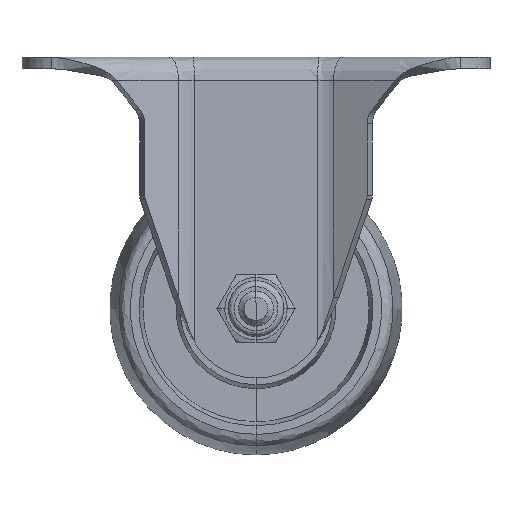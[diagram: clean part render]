
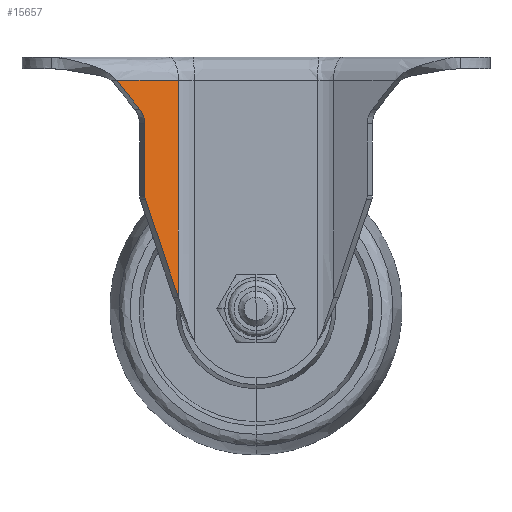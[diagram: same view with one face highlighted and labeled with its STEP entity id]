
A CAD part, front view. The second image highlights one B-rep face of the part: STEP entity #15657.
In plain terms, the highlighted planar face has unit normal (0.447, -0.894, 0).
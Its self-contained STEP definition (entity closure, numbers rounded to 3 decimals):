
#1718 = CARTESIAN_POINT ( 'NONE',  ( -13.267, -18.133, -4. ) ) ;
#1763 = CARTESIAN_POINT ( 'NONE',  ( -23.799, -23.399, -4. ) ) ;
#1767 = CARTESIAN_POINT ( 'NONE',  ( -19., -21., -11.403 ) ) ;
#1799 = CARTESIAN_POINT ( 'NONE',  ( -18.896, -20.948, -24.31 ) ) ;
#4661 = CARTESIAN_POINT ( 'NONE',  ( -13.267, -18.133, 0. ) ) ;
#4663 = DIRECTION ( 'NONE',  ( 0., 0., -1. ) ) ;
#4980 = CARTESIAN_POINT ( 'NONE',  ( -13.267, -18.133, -41.047 ) ) ;
#4982 = DIRECTION ( 'NONE',  ( -0.315, -0.157, 0.936 ) ) ;
#5421 = CARTESIAN_POINT ( 'NONE',  ( -19., -21., -23.673 ) ) ;
#5426 = CARTESIAN_POINT ( 'NONE',  ( -19., -21., -23.89 ) ) ;
#5427 = CARTESIAN_POINT ( 'NONE',  ( -18.964, -20.982, -24.107 ) ) ;
#5428 = CARTESIAN_POINT ( 'NONE',  ( -18.896, -20.948, -24.31 ) ) ;
#5488 = CARTESIAN_POINT ( 'NONE',  ( -19., -21., -11.403 ) ) ;
#5491 = CARTESIAN_POINT ( 'NONE',  ( -23.799, -23.399, -4. ) ) ;
#5524 = CARTESIAN_POINT ( 'NONE',  ( -19., -21., -11.058 ) ) ;
#5526 = CARTESIAN_POINT ( 'NONE',  ( -19.047, -21.024, -10.714 ) ) ;
#5528 = CARTESIAN_POINT ( 'NONE',  ( -19.136, -21.068, -10.383 ) ) ;
#5530 = CARTESIAN_POINT ( 'NONE',  ( -19.201, -21.1, -10.139 ) ) ;
#5532 = CARTESIAN_POINT ( 'NONE',  ( -19.288, -21.144, -9.903 ) ) ;
#5534 = CARTESIAN_POINT ( 'NONE',  ( -19.395, -21.197, -9.678 ) ) ;
#5535 = CARTESIAN_POINT ( 'NONE',  ( -19.527, -21.263, -9.4 ) ) ;
#5537 = CARTESIAN_POINT ( 'NONE',  ( -19.689, -21.344, -9.139 ) ) ;
#5539 = CARTESIAN_POINT ( 'NONE',  ( -19.877, -21.438, -8.904 ) ) ;
#5543 = CARTESIAN_POINT ( 'NONE',  ( -20.58, -21.79, -4. ) ) ;
#5544 = CARTESIAN_POINT ( 'NONE',  ( -17.363, -20.181, -4. ) ) ;
#5546 = CARTESIAN_POINT ( 'NONE',  ( -14.146, -18.573, -4. ) ) ;
#5548 = CARTESIAN_POINT ( 'NONE',  ( -13.84, -18.42, -4. ) ) ;
#5550 = CARTESIAN_POINT ( 'NONE',  ( -13.547, -18.266, -4. ) ) ;
#5552 = CARTESIAN_POINT ( 'NONE',  ( -13.267, -18.133, -4. ) ) ;
#5665 = CARTESIAN_POINT ( 'NONE',  ( -19., -21., -23.673 ) ) ;
#5666 = DIRECTION ( 'NONE',  ( 0., 0., 1. ) ) ;
#6438 = ORIENTED_EDGE ( 'NONE', *, *, #8077, .F. ) ;
#6466 = ORIENTED_EDGE ( 'NONE', *, *, #8131, .F. ) ;
#6470 = ORIENTED_EDGE ( 'NONE', *, *, #8119, .F. ) ;
#6482 = ORIENTED_EDGE ( 'NONE', *, *, #8110, .T. ) ;
#6500 = ORIENTED_EDGE ( 'NONE', *, *, #8118, .F. ) ;
#6503 = ORIENTED_EDGE ( 'NONE', *, *, #8065, .F. ) ;
#6507 = ORIENTED_EDGE ( 'NONE', *, *, #8029, .F. ) ;
#8029 = EDGE_CURVE ( 'NONE', #14079, #17683, #18858, .T. ) ;
#8065 = EDGE_CURVE ( 'NONE', #17638, #13934, #18859, .T. ) ;
#8077 = EDGE_CURVE ( 'NONE', #13934, #17720, #18848, .T. ) ;
#8110 = EDGE_CURVE ( 'NONE', #14011, #17720, #18614, .T. ) ;
#8118 = EDGE_CURVE ( 'NONE', #17687, #14079, #18700, .T. ) ;
#8119 = EDGE_CURVE ( 'NONE', #17683, #17638, #18649, .T. ) ;
#8131 = EDGE_CURVE ( 'NONE', #14011, #17687, #18873, .T. ) ;
#8279 = AXIS2_PLACEMENT_3D ( 'NONE', #10340, #10375, #10376 ) ;
#10340 = CARTESIAN_POINT ( 'NONE',  ( -13.267, -18.133, 0. ) ) ;
#10373 = PLANE ( 'NONE',  #8279 ) ;
#10375 = DIRECTION ( 'NONE',  ( 0.447, -0.894, 0. ) ) ;
#10376 = DIRECTION ( 'NONE',  ( -0.894, -0.447, 0. ) ) ;
#13934 = VERTEX_POINT ( 'NONE', #16470 ) ;
#14011 = VERTEX_POINT ( 'NONE', #16509 ) ;
#14079 = VERTEX_POINT ( 'NONE', #16576 ) ;
#14786 = CARTESIAN_POINT ( 'NONE',  ( -19.877, -21.438, -8.904 ) ) ;
#14790 = DIRECTION ( 'NONE',  ( -0.596, -0.298, 0.745 ) ) ;
#15657 = ADVANCED_FACE ( 'NONE', ( #19006 ), #10373, .T. ) ;
#16470 = CARTESIAN_POINT ( 'NONE',  ( -13.267, -18.133, -41.047 ) ) ;
#16509 = CARTESIAN_POINT ( 'NONE',  ( -19., -21., -23.673 ) ) ;
#16576 = CARTESIAN_POINT ( 'NONE',  ( -19.877, -21.438, -8.904 ) ) ;
#17638 = VERTEX_POINT ( 'NONE', #1718 ) ;
#17683 = VERTEX_POINT ( 'NONE', #1763 ) ;
#17687 = VERTEX_POINT ( 'NONE', #1767 ) ;
#17720 = VERTEX_POINT ( 'NONE', #1799 ) ;
#18554 = EDGE_LOOP ( 'NONE', ( #6438, #6503, #6470, #6507, #6500, #6466, #6482 ) ) ;
#18614 = B_SPLINE_CURVE_WITH_KNOTS ( 'NONE', 3,
 ( #5421, #5426, #5427, #5428 ),
 .UNSPECIFIED., .F., .F.,
 ( 4, 4 ),
 ( 0., 0.001 ),
 .UNSPECIFIED. ) ;
#18649 = B_SPLINE_CURVE_WITH_KNOTS ( 'NONE', 3,
 ( #5491, #5543, #5544, #5546, #5548, #5550, #5552 ),
 .UNSPECIFIED., .F., .F.,
 ( 4, 3, 4 ),
 ( 0., 0.913, 1. ),
 .UNSPECIFIED. ) ;
#18700 = B_SPLINE_CURVE_WITH_KNOTS ( 'NONE', 3,
 ( #5488, #5524, #5526, #5528, #5530, #5532, #5534, #5535, #5537, #5539 ),
 .UNSPECIFIED., .F., .F.,
 ( 4, 3, 3, 4 ),
 ( 0., 0.001, 0.002, 0.003 ),
 .UNSPECIFIED. ) ;
#18848 = LINE ( 'NONE', #4980, #18860 ) ;
#18856 = VECTOR ( 'NONE', #14790, 1000. ) ;
#18858 = LINE ( 'NONE', #14786, #18856 ) ;
#18859 = LINE ( 'NONE', #4661, #18861 ) ;
#18860 = VECTOR ( 'NONE', #4982, 1000. ) ;
#18861 = VECTOR ( 'NONE', #4663, 1000. ) ;
#18871 = VECTOR ( 'NONE', #5666, 1000. ) ;
#18873 = LINE ( 'NONE', #5665, #18871 ) ;
#19006 = FACE_OUTER_BOUND ( 'NONE', #18554, .T. ) ;
